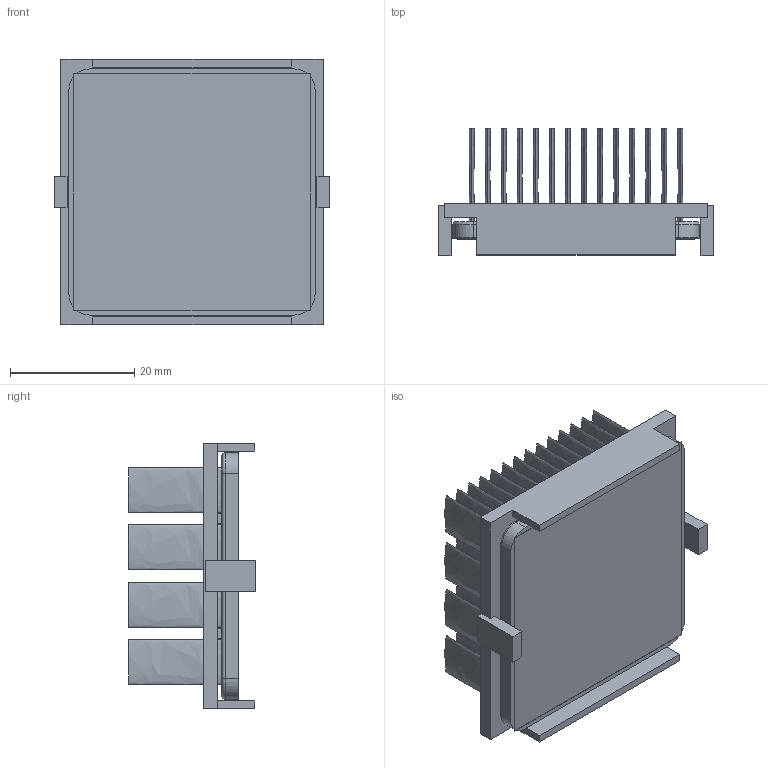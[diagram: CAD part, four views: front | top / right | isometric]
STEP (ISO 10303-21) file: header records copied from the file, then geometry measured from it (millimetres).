
FILE_DESCRIPTION (( 'STEP AP214' ), '1' );
FILE_NAME ('INM40001-18W-2.6K30.STEP', '2023-02-21T17:39:27', ( '' ), ( '' ), 'SwSTEP 2.0', 'SolidWorks 2020', '' );
FILE_SCHEMA (( 'AUTOMOTIVE_DESIGN' ));
Length unit declared in the file: inch
Products named in the file (1): INM40001-18W-2.6K30
Bounding box: 44.2 x 20.4 x 42.7 mm (x, y, z)
Volume: 10041.1 mm3; surface area: 21736.1 mm2
Topology: 3 solids, 3 shells, 246 faces, 544 edges, 360 vertices
Faces by surface type: plane 122, bspline 112, cylinder 8, torus 4
Entity records: 10244 total; most frequent: CARTESIAN_POINT 2607, ORIENTED_EDGE 1088, DIRECTION 610, EDGE_CURVE 544, VERTEX_POINT 360, EDGE_LOOP 304, LINE 300, VECTOR 300
